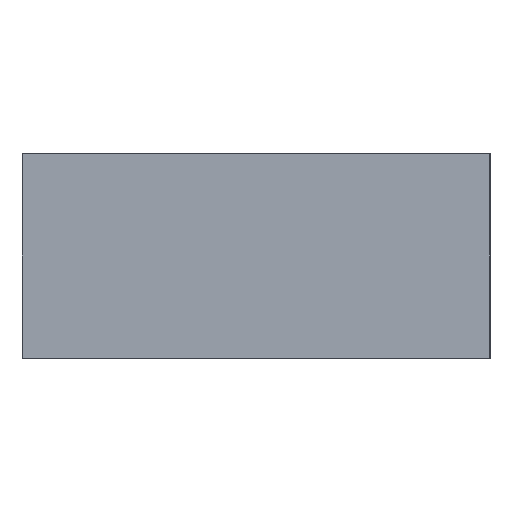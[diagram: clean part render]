
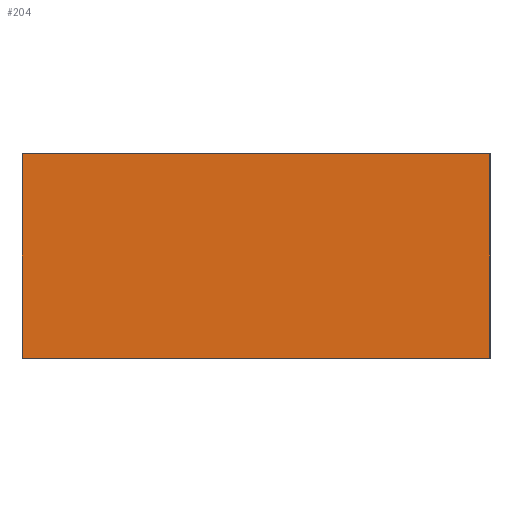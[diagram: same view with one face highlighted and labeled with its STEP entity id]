
A CAD part, left-side view. The second image highlights one B-rep face of the part: STEP entity #204.
In plain terms, the highlighted planar face has unit normal (-1, 0, 0).
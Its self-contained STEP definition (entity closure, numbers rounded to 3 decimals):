
#204=ADVANCED_FACE('',(#410),#412,.T.);
#410=FACE_BOUND('',#411,.T.);
#411=EDGE_LOOP('',(#558,#559,#560,#561));
#412=PLANE('',#413);
#413=AXIS2_PLACEMENT_3D('',#414,#415,#416);
#414=CARTESIAN_POINT('',(-1.6,-0.8,0.));
#415=DIRECTION('',(-1.,0.,0.));
#416=DIRECTION('',(0.,0.,1.));
#558=ORIENTED_EDGE('',*,*,#638,.T.);
#559=ORIENTED_EDGE('',*,*,#648,.T.);
#560=ORIENTED_EDGE('',*,*,#643,.F.);
#561=ORIENTED_EDGE('',*,*,#649,.F.);
#638=EDGE_CURVE('',#716,#714,#717,.T.);
#643=EDGE_CURVE('',#723,#725,#726,.T.);
#648=EDGE_CURVE('',#714,#725,#732,.T.);
#649=EDGE_CURVE('',#716,#723,#733,.T.);
#714=VERTEX_POINT('',#860);
#716=VERTEX_POINT('',#864);
#717=LINE('',#865,#866);
#723=VERTEX_POINT('',#879);
#725=VERTEX_POINT('',#883);
#726=LINE('',#884,#885);
#732=LINE('',#900,#901);
#733=LINE('',#903,#904);
#860=CARTESIAN_POINT('',(-1.6,-0.8,0.7));
#864=CARTESIAN_POINT('',(-1.6,-0.8,0.));
#865=CARTESIAN_POINT('',(-1.6,-0.8,0.));
#866=VECTOR('',#867,1.);
#867=DIRECTION('',(0.,0.,1.));
#879=CARTESIAN_POINT('',(-1.6,0.8,0.));
#883=CARTESIAN_POINT('',(-1.6,0.8,0.7));
#884=CARTESIAN_POINT('',(-1.6,0.8,0.));
#885=VECTOR('',#886,1.);
#886=DIRECTION('',(0.,0.,1.));
#900=CARTESIAN_POINT('',(-1.6,-0.8,0.7));
#901=VECTOR('',#902,1.);
#902=DIRECTION('',(0.,1.,0.));
#903=CARTESIAN_POINT('',(-1.6,-0.8,0.));
#904=VECTOR('',#905,1.);
#905=DIRECTION('',(0.,1.,0.));
